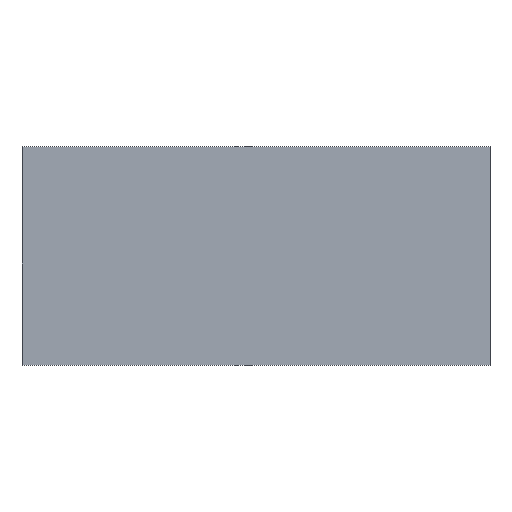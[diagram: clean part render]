
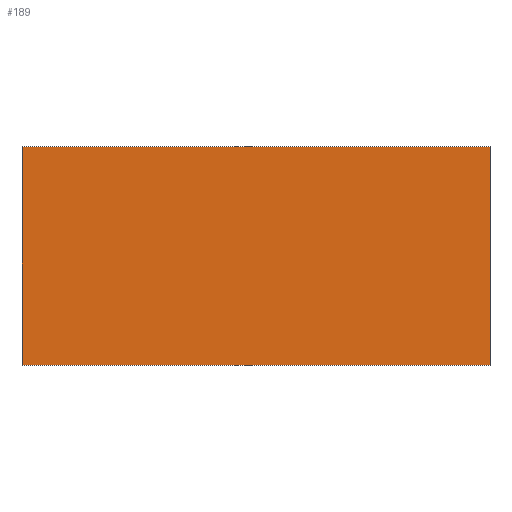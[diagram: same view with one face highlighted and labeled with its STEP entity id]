
A CAD part, top view. The second image highlights one B-rep face of the part: STEP entity #189.
In plain terms, the highlighted planar face has unit normal (0, 0, 1).
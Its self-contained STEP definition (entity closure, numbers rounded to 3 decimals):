
#10 = AXIS2_PLACEMENT_3D ( 'NONE', #143, #164, #165 ) ;
#24 = EDGE_CURVE ( 'NONE', #157, #47, #111, .T. ) ;
#29 = EDGE_CURVE ( 'NONE', #121, #160, #67, .T. ) ;
#36 = ORIENTED_EDGE ( 'NONE', *, *, #24, .T. ) ;
#39 = EDGE_CURVE ( 'NONE', #160, #157, #87, .T. ) ;
#43 = VECTOR ( 'NONE', #70, 1000. ) ;
#47 = VERTEX_POINT ( 'NONE', #83 ) ;
#58 = ORIENTED_EDGE ( 'NONE', *, *, #39, .T. ) ;
#61 = CARTESIAN_POINT ( 'NONE',  ( -45., 21., 0. ) ) ;
#65 = CARTESIAN_POINT ( 'NONE',  ( -45., -21., 0. ) ) ;
#67 = LINE ( 'NONE', #65, #198 ) ;
#69 = CARTESIAN_POINT ( 'NONE',  ( 45., 21., 0. ) ) ;
#70 = DIRECTION ( 'NONE',  ( -1., 0., 0. ) ) ;
#75 = DIRECTION ( 'NONE',  ( 1., 0., 0. ) ) ;
#79 = VECTOR ( 'NONE', #97, 1000. ) ;
#81 = EDGE_CURVE ( 'NONE', #47, #121, #89, .T. ) ;
#83 = CARTESIAN_POINT ( 'NONE',  ( -45., 21., 0. ) ) ;
#85 = DIRECTION ( 'NONE',  ( 0., 1., 0. ) ) ;
#87 = LINE ( 'NONE', #69, #127 ) ;
#89 = LINE ( 'NONE', #101, #79 ) ;
#97 = DIRECTION ( 'NONE',  ( 0., -1., 0. ) ) ;
#98 = EDGE_LOOP ( 'NONE', ( #197, #180, #58, #36 ) ) ;
#101 = CARTESIAN_POINT ( 'NONE',  ( -45., 21., 0. ) ) ;
#111 = LINE ( 'NONE', #61, #43 ) ;
#119 = CARTESIAN_POINT ( 'NONE',  ( -45., -21., 0. ) ) ;
#121 = VERTEX_POINT ( 'NONE', #119 ) ;
#125 = CARTESIAN_POINT ( 'NONE',  ( 45., 21., 0. ) ) ;
#126 = CARTESIAN_POINT ( 'NONE',  ( 45., -21., 0. ) ) ;
#127 = VECTOR ( 'NONE', #85, 1000. ) ;
#135 = PLANE ( 'NONE',  #10 ) ;
#143 = CARTESIAN_POINT ( 'NONE',  ( 0., 0., 0. ) ) ;
#157 = VERTEX_POINT ( 'NONE', #125 ) ;
#160 = VERTEX_POINT ( 'NONE', #126 ) ;
#164 = DIRECTION ( 'NONE',  ( 0., 0., 1. ) ) ;
#165 = DIRECTION ( 'NONE',  ( 1., 0., 0. ) ) ;
#172 = FACE_OUTER_BOUND ( 'NONE', #98, .T. ) ;
#180 = ORIENTED_EDGE ( 'NONE', *, *, #29, .T. ) ;
#189 = ADVANCED_FACE ( 'NONE', ( #172 ), #135, .T. ) ;
#197 = ORIENTED_EDGE ( 'NONE', *, *, #81, .T. ) ;
#198 = VECTOR ( 'NONE', #75, 1000. ) ;
